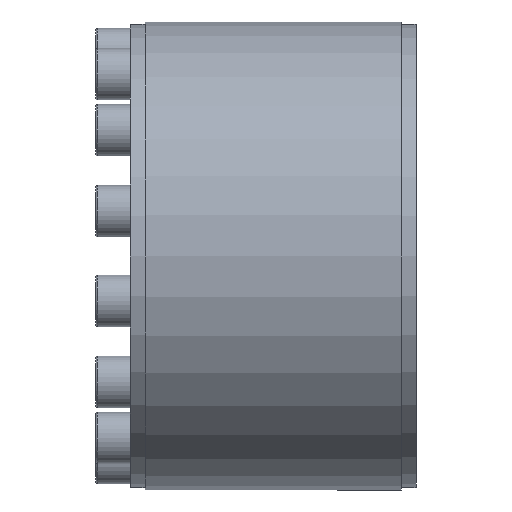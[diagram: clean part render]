
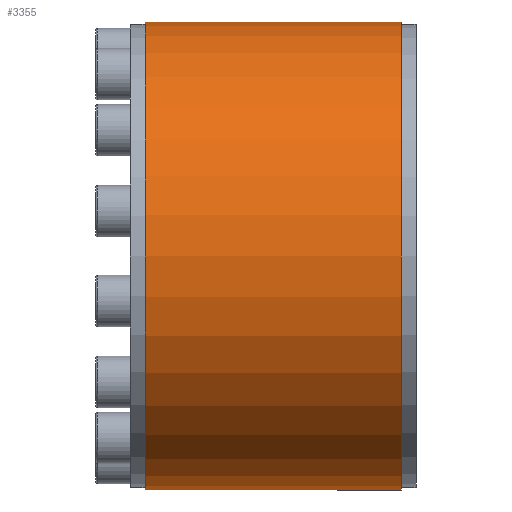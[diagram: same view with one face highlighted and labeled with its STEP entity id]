
A CAD part, left-side view. The second image highlights one B-rep face of the part: STEP entity #3355.
In plain terms, the highlighted cylindrical face has radius 95 mm (diameter 190 mm), a partial arc.
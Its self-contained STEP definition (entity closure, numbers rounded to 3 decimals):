
#322 = DIRECTION ( 'NONE',  ( 0., 0., -1. ) ) ;
#342 = CARTESIAN_POINT ( 'NONE',  ( 0., 52., 0. ) ) ;
#344 = VERTEX_POINT ( 'NONE', #2516 ) ;
#759 = VERTEX_POINT ( 'NONE', #2830 ) ;
#827 = VECTOR ( 'NONE', #2050, 1000. ) ;
#1009 = AXIS2_PLACEMENT_3D ( 'NONE', #342, #2698, #322 ) ;
#1472 = DIRECTION ( 'NONE',  ( 0., -1., 0. ) ) ;
#1517 = CARTESIAN_POINT ( 'NONE',  ( 0., -52., 0. ) ) ;
#1927 = EDGE_CURVE ( 'NONE', #2564, #4938, #4732, .T. ) ;
#2031 = DIRECTION ( 'NONE',  ( 0., -1., 0. ) ) ;
#2050 = DIRECTION ( 'NONE',  ( 0., -1., 0. ) ) ;
#2133 = CARTESIAN_POINT ( 'NONE',  ( 0., -52., 95. ) ) ;
#2210 = CYLINDRICAL_SURFACE ( 'NONE', #2689, 95. ) ;
#2516 = CARTESIAN_POINT ( 'NONE',  ( 0., 52., -95. ) ) ;
#2564 = VERTEX_POINT ( 'NONE', #2133 ) ;
#2689 = AXIS2_PLACEMENT_3D ( 'NONE', #3477, #1472, #5118 ) ;
#2698 = DIRECTION ( 'NONE',  ( 0., -1., 0. ) ) ;
#2830 = CARTESIAN_POINT ( 'NONE',  ( 0., 52., 95. ) ) ;
#3314 = ORIENTED_EDGE ( 'NONE', *, *, #1927, .F. ) ;
#3322 = CIRCLE ( 'NONE', #1009, 95. ) ;
#3355 = ADVANCED_FACE ( 'NONE', ( #4464 ), #2210, .T. ) ;
#3477 = CARTESIAN_POINT ( 'NONE',  ( 0., 0., 0. ) ) ;
#3510 = LINE ( 'NONE', #4825, #827 ) ;
#3515 = ORIENTED_EDGE ( 'NONE', *, *, #3849, .T. ) ;
#3539 = ORIENTED_EDGE ( 'NONE', *, *, #4602, .T. ) ;
#3587 = EDGE_LOOP ( 'NONE', ( #4188, #3515, #3539, #3314 ) ) ;
#3849 = EDGE_CURVE ( 'NONE', #759, #344, #3322, .T. ) ;
#4022 = LINE ( 'NONE', #4377, #4139 ) ;
#4139 = VECTOR ( 'NONE', #2031, 1000. ) ;
#4188 = ORIENTED_EDGE ( 'NONE', *, *, #4606, .F. ) ;
#4259 = DIRECTION ( 'NONE',  ( 0., 0., -1. ) ) ;
#4377 = CARTESIAN_POINT ( 'NONE',  ( 0., 0., -95. ) ) ;
#4464 = FACE_OUTER_BOUND ( 'NONE', #3587, .T. ) ;
#4577 = AXIS2_PLACEMENT_3D ( 'NONE', #1517, #4713, #4259 ) ;
#4602 = EDGE_CURVE ( 'NONE', #344, #4938, #4022, .T. ) ;
#4606 = EDGE_CURVE ( 'NONE', #759, #2564, #3510, .T. ) ;
#4651 = CARTESIAN_POINT ( 'NONE',  ( 0., -52., -95. ) ) ;
#4713 = DIRECTION ( 'NONE',  ( 0., -1., 0. ) ) ;
#4732 = CIRCLE ( 'NONE', #4577, 95. ) ;
#4825 = CARTESIAN_POINT ( 'NONE',  ( 0., 0., 95. ) ) ;
#4938 = VERTEX_POINT ( 'NONE', #4651 ) ;
#5118 = DIRECTION ( 'NONE',  ( 0., 0., -1. ) ) ;
